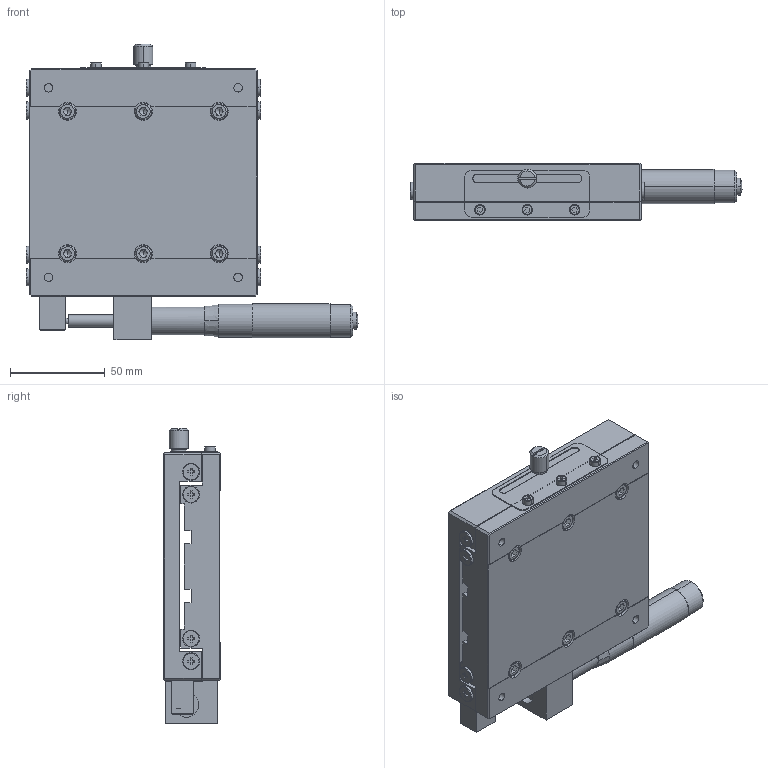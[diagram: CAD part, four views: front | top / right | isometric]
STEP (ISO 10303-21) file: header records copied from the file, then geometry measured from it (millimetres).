
FILE_DESCRIPTION (( 'STEP AP203' ), '1' );
FILE_NAME ('LX120-R-no logo.STEP', '2016-06-21T09:57:47', ( 'zhao-yi' ), ( '' ), 'SwSTEP 2.0', 'SolidWorks 2014', '' );
FILE_SCHEMA (( 'CONFIG_CONTROL_DESIGN' ));
Length unit declared in the file: millimetre
Products named in the file (4): L120R-1; L120R-2; MT50-1-1; LX120-R-no logo
Assembly tree (3 placements, depth 2):
  LX120-R-no logo
    L120R-1
    L120R-2
    MT50-1-1
Bounding box: 175.17 x 30 x 156 mm (x, y, z)
Volume: 425344.9 mm3; surface area: 108128.4 mm2
Topology: 3 solids, 10 shells, 815 faces, 2053 edges, 1302 vertices
Faces by surface type: plane 480, cylinder 196, bspline 75, cone 64
Entity records: 25889 total; most frequent: CARTESIAN_POINT 5915, DIRECTION 4118, ORIENTED_EDGE 4034, EDGE_CURVE 2017, AXIS2_PLACEMENT_3D 1437, VERTEX_POINT 1302, VECTOR 1244, LINE 1244
